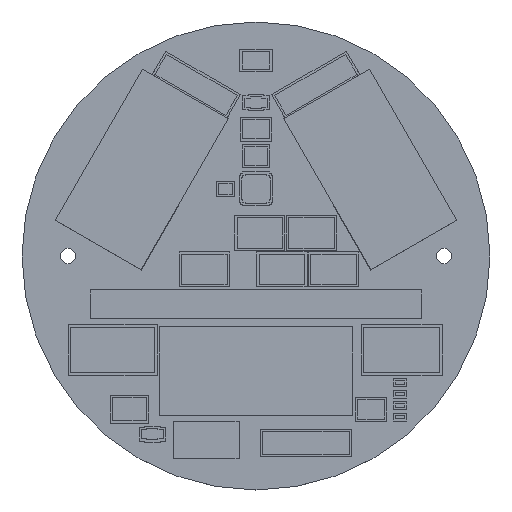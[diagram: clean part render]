
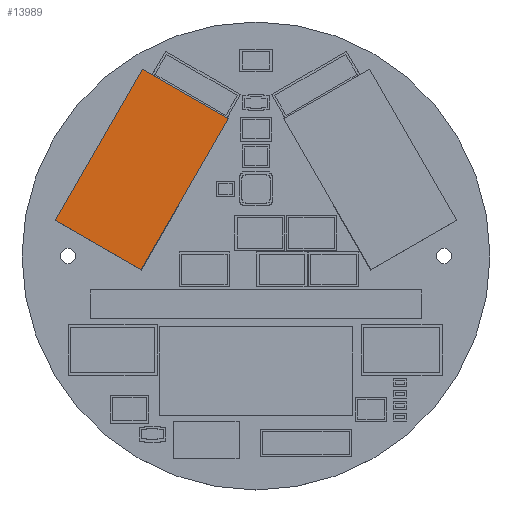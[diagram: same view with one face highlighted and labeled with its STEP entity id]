
A CAD part, top view. The second image highlights one B-rep face of the part: STEP entity #13989.
In plain terms, the highlighted planar face has unit normal (0, 0, 1).
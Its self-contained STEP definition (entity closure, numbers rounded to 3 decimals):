
#2218 = PLANE('',#2219);
#2219 = AXIS2_PLACEMENT_3D('',#2220,#2221,#2222);
#2220 = CARTESIAN_POINT('',(-7.196,35.736,1.6));
#2221 = DIRECTION('',(0.5,0.866,0.));
#2222 = DIRECTION('',(0.,0.,1.));
#2246 = PLANE('',#2247);
#2247 = AXIS2_PLACEMENT_3D('',#2248,#2249,#2250);
#2248 = CARTESIAN_POINT('',(-29.946,-3.668,1.6));
#2249 = DIRECTION('',(-0.866,0.5,0.));
#2250 = DIRECTION('',(0.,0.,1.));
#2274 = PLANE('',#2275);
#2275 = AXIS2_PLACEMENT_3D('',#2276,#2277,#2278);
#2276 = CARTESIAN_POINT('',(-29.946,-3.668,1.6));
#2277 = DIRECTION('',(0.5,0.866,0.));
#2278 = DIRECTION('',(0.,0.,1.));
#2302 = PLANE('',#2303);
#2303 = AXIS2_PLACEMENT_3D('',#2304,#2305,#2306);
#2304 = CARTESIAN_POINT('',(-52.376,9.282,1.6));
#2305 = DIRECTION('',(-0.866,0.5,0.));
#2306 = DIRECTION('',(0.,0.,1.));
#8050 = VERTEX_POINT('',#8051);
#8051 = CARTESIAN_POINT('',(-7.196,35.736,11.6));
#8096 = VERTEX_POINT('',#8097);
#8097 = CARTESIAN_POINT('',(-29.626,48.686,11.6));
#8118 = EDGE_CURVE('',#8050,#8096,#8119,.T.);
#8119 = SURFACE_CURVE('',#8120,(#8124,#8131),.PCURVE_S1.);
#8120 = LINE('',#8121,#8122);
#8121 = CARTESIAN_POINT('',(-7.196,35.736,11.6));
#8122 = VECTOR('',#8123,1.);
#8123 = DIRECTION('',(-0.866,0.5,0.));
#8124 = PCURVE('',#2218,#8125);
#8125 = DEFINITIONAL_REPRESENTATION('',(#8126),#8130);
#8126 = LINE('',#8127,#8128);
#8127 = CARTESIAN_POINT('',(10.,0.));
#8128 = VECTOR('',#8129,1.);
#8129 = DIRECTION('',(0.,-1.));
#8130 = ( GEOMETRIC_REPRESENTATION_CONTEXT(2) 
PARAMETRIC_REPRESENTATION_CONTEXT() REPRESENTATION_CONTEXT('2D SPACE',''
  ) );
#8131 = PCURVE('',#8132,#8137);
#8132 = PLANE('',#8133);
#8133 = AXIS2_PLACEMENT_3D('',#8134,#8135,#8136);
#8134 = CARTESIAN_POINT('',(-29.946,-3.668,11.6));
#8135 = DIRECTION('',(0.,0.,1.));
#8136 = DIRECTION('',(0.5,0.866,0.));
#8137 = DEFINITIONAL_REPRESENTATION('',(#8138),#8142);
#8138 = LINE('',#8139,#8140);
#8139 = CARTESIAN_POINT('',(45.5,0.));
#8140 = VECTOR('',#8141,1.);
#8141 = DIRECTION('',(0.,1.));
#8142 = ( GEOMETRIC_REPRESENTATION_CONTEXT(2) 
PARAMETRIC_REPRESENTATION_CONTEXT() REPRESENTATION_CONTEXT('2D SPACE',''
  ) );
#8198 = VERTEX_POINT('',#8199);
#8199 = CARTESIAN_POINT('',(-29.946,-3.668,11.6));
#8220 = EDGE_CURVE('',#8198,#8050,#8221,.T.);
#8221 = SURFACE_CURVE('',#8222,(#8226,#8233),.PCURVE_S1.);
#8222 = LINE('',#8223,#8224);
#8223 = CARTESIAN_POINT('',(-29.946,-3.668,11.6));
#8224 = VECTOR('',#8225,1.);
#8225 = DIRECTION('',(0.5,0.866,0.));
#8226 = PCURVE('',#2246,#8227);
#8227 = DEFINITIONAL_REPRESENTATION('',(#8228),#8232);
#8228 = LINE('',#8229,#8230);
#8229 = CARTESIAN_POINT('',(10.,0.));
#8230 = VECTOR('',#8231,1.);
#8231 = DIRECTION('',(0.,1.));
#8232 = ( GEOMETRIC_REPRESENTATION_CONTEXT(2) 
PARAMETRIC_REPRESENTATION_CONTEXT() REPRESENTATION_CONTEXT('2D SPACE',''
  ) );
#8233 = PCURVE('',#8132,#8234);
#8234 = DEFINITIONAL_REPRESENTATION('',(#8235),#8239);
#8235 = LINE('',#8236,#8237);
#8236 = CARTESIAN_POINT('',(0.,0.));
#8237 = VECTOR('',#8238,1.);
#8238 = DIRECTION('',(1.,0.));
#8239 = ( GEOMETRIC_REPRESENTATION_CONTEXT(2) 
PARAMETRIC_REPRESENTATION_CONTEXT() REPRESENTATION_CONTEXT('2D SPACE',''
  ) );
#8319 = VERTEX_POINT('',#8320);
#8320 = CARTESIAN_POINT('',(-52.376,9.282,11.6));
#8341 = EDGE_CURVE('',#8198,#8319,#8342,.T.);
#8342 = SURFACE_CURVE('',#8343,(#8347,#8354),.PCURVE_S1.);
#8343 = LINE('',#8344,#8345);
#8344 = CARTESIAN_POINT('',(-29.946,-3.668,11.6));
#8345 = VECTOR('',#8346,1.);
#8346 = DIRECTION('',(-0.866,0.5,0.));
#8347 = PCURVE('',#2274,#8348);
#8348 = DEFINITIONAL_REPRESENTATION('',(#8349),#8353);
#8349 = LINE('',#8350,#8351);
#8350 = CARTESIAN_POINT('',(10.,0.));
#8351 = VECTOR('',#8352,1.);
#8352 = DIRECTION('',(0.,-1.));
#8353 = ( GEOMETRIC_REPRESENTATION_CONTEXT(2) 
PARAMETRIC_REPRESENTATION_CONTEXT() REPRESENTATION_CONTEXT('2D SPACE',''
  ) );
#8354 = PCURVE('',#8132,#8355);
#8355 = DEFINITIONAL_REPRESENTATION('',(#8356),#8360);
#8356 = LINE('',#8357,#8358);
#8357 = CARTESIAN_POINT('',(0.,0.));
#8358 = VECTOR('',#8359,1.);
#8359 = DIRECTION('',(0.,1.));
#8360 = ( GEOMETRIC_REPRESENTATION_CONTEXT(2) 
PARAMETRIC_REPRESENTATION_CONTEXT() REPRESENTATION_CONTEXT('2D SPACE',''
  ) );
#8367 = EDGE_CURVE('',#8319,#8096,#8368,.T.);
#8368 = SURFACE_CURVE('',#8369,(#8373,#8380),.PCURVE_S1.);
#8369 = LINE('',#8370,#8371);
#8370 = CARTESIAN_POINT('',(-52.376,9.282,11.6));
#8371 = VECTOR('',#8372,1.);
#8372 = DIRECTION('',(0.5,0.866,0.));
#8373 = PCURVE('',#2302,#8374);
#8374 = DEFINITIONAL_REPRESENTATION('',(#8375),#8379);
#8375 = LINE('',#8376,#8377);
#8376 = CARTESIAN_POINT('',(10.,0.));
#8377 = VECTOR('',#8378,1.);
#8378 = DIRECTION('',(0.,1.));
#8379 = ( GEOMETRIC_REPRESENTATION_CONTEXT(2) 
PARAMETRIC_REPRESENTATION_CONTEXT() REPRESENTATION_CONTEXT('2D SPACE',''
  ) );
#8380 = PCURVE('',#8132,#8381);
#8381 = DEFINITIONAL_REPRESENTATION('',(#8382),#8386);
#8382 = LINE('',#8383,#8384);
#8383 = CARTESIAN_POINT('',(0.,25.9));
#8384 = VECTOR('',#8385,1.);
#8385 = DIRECTION('',(1.,0.));
#8386 = ( GEOMETRIC_REPRESENTATION_CONTEXT(2) 
PARAMETRIC_REPRESENTATION_CONTEXT() REPRESENTATION_CONTEXT('2D SPACE',''
  ) );
#13989 = ADVANCED_FACE('',(#13990),#8132,.T.);
#13990 = FACE_BOUND('',#13991,.T.);
#13991 = EDGE_LOOP('',(#13992,#13993,#13994,#13995));
#13992 = ORIENTED_EDGE('',*,*,#8341,.F.);
#13993 = ORIENTED_EDGE('',*,*,#8220,.T.);
#13994 = ORIENTED_EDGE('',*,*,#8118,.T.);
#13995 = ORIENTED_EDGE('',*,*,#8367,.F.);
